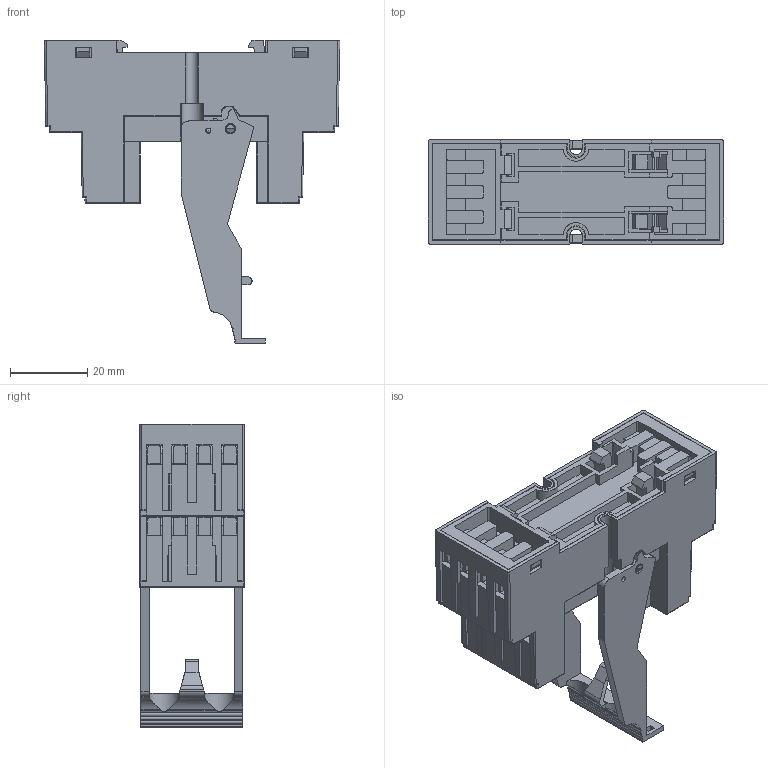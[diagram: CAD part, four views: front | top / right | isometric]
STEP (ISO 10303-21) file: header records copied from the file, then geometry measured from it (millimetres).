
FILE_DESCRIPTION(('STEP AP214'),'2;1');
FILE_NAME('94842_with_094913 --- catalogo.stp','2011-12-06T10:19:43',(''),(''),'2007.1.106','THINKDESIGN','');
FILE_SCHEMA(('AUTOMOTIVE_DESIGN'));
Products named in the file (1): None
Bounding box: 76.4 x 27 x 78.59 mm (x, y, z)
Surface area: 28698.8 mm2 (no closed solid volume)
Topology: 0 solids, 0 shells, 1317 faces, 7280 edges, 7184 vertices
Faces by surface type: plane 921, cylinder 296, bspline 100
Full cylindrical faces by diameter (mm): 1.2 x6, 1.3 x2, 2.5 x2, 2.6 x2, 2.8 x14, 3.6 x2, 4.5 x1, 4.7 x14, 5.3 x14
Entity records: 77601 total; most frequent: CARTESIAN_POINT 25347, DIRECTION 9078, COMPOSITE_CURVE_SEGMENT 7256, TRIMMED_CURVE 6010, VECTOR 5544, LINE 5544, AXIS2_PLACEMENT_3D 1767, OUTER_BOUNDARY_CURVE 1317
